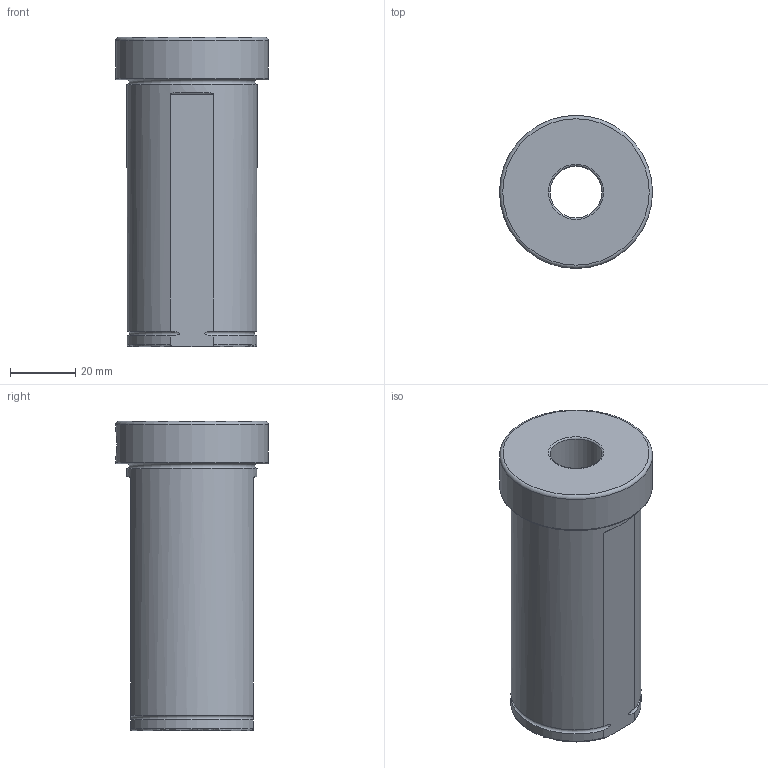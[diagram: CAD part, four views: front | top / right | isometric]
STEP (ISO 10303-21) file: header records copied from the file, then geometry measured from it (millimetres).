
FILE_DESCRIPTION(/* description */ (''),/* implementation_level */ '2;1');
FILE_NAME(/* name */ '',/* time_stamp */ '2025-04-15T13:08:55+03:00',/* author */ ('User'),/* organization */ (''),/* preprocessor_version */ 'ST-DEVELOPER v19.2',/* originating_system */ 'Autodesk Inventor 2024',/* authorisation */ '');
FILE_SCHEMA (('AUTOMOTIVE_DESIGN { 1 0 10303 214 3 1 1 }'));
Length unit declared in the file: millimetre
Products named in the file (1): Втулка переходная 
D40-d6
Bounding box: 47 x 47 x 95 mm (x, y, z)
Volume: 91567.2 mm3; surface area: 22146.7 mm2
Topology: 1 solids, 1 shells, 69 faces, 159 edges, 106 vertices
Faces by surface type: plane 39, cylinder 18, torus 11, bspline 1
Full cylindrical faces by diameter (mm): 7 x3, 7.2 x3, 8 x3, 16 x1, 25 x1, 27 x1, 40 x1, 47 x1
Entity records: 2341 total; most frequent: CARTESIAN_POINT 633, DIRECTION 339, ORIENTED_EDGE 318, EDGE_CURVE 159, AXIS2_PLACEMENT_3D 128, VERTEX_POINT 106, EDGE_LOOP 85, LINE 83
